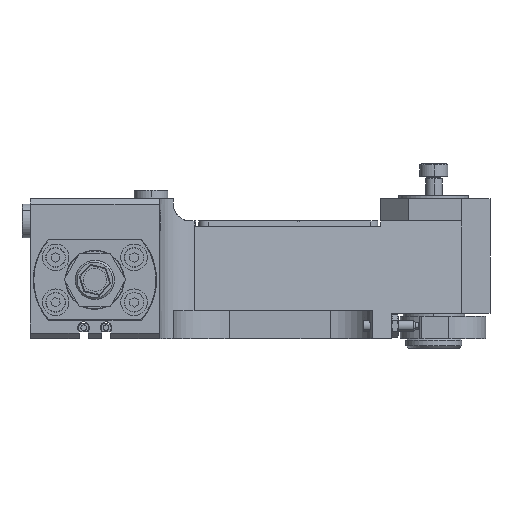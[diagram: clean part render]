
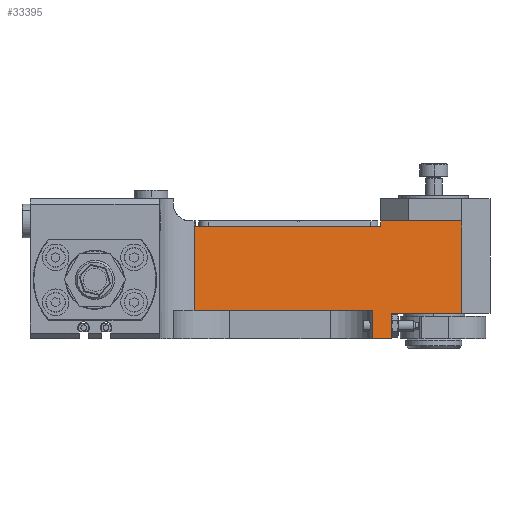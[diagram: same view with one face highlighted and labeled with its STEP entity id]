
A CAD part, left-side view. The second image highlights one B-rep face of the part: STEP entity #33395.
In plain terms, the highlighted planar face has unit normal (-0.985, -0.174, 0).
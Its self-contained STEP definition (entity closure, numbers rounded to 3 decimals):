
#8 = CARTESIAN_POINT ( 'NONE',  ( -24.408, -47., 0. ) ) ;
#9 = ORIENTED_EDGE ( 'NONE', *, *, #9022, .T. ) ;
#218 = FACE_OUTER_BOUND ( 'NONE', #1739, .T. ) ;
#664 = ORIENTED_EDGE ( 'NONE', *, *, #6085, .T. ) ;
#1014 = LINE ( 'NONE', #47224, #39146 ) ;
#1739 = EDGE_LOOP ( 'NONE', ( #11835, #14529, #16876, #664, #2997, #37823, #34022, #47125, #31259, #22346, #9, #3172 ) ) ;
#2475 = CARTESIAN_POINT ( 'NONE',  ( -20., -72., 0. ) ) ;
#2677 = DIRECTION ( 'NONE',  ( -0.174, 0.985, 0. ) ) ;
#2873 = VERTEX_POINT ( 'NONE', #39108 ) ;
#2928 = DIRECTION ( 'NONE',  ( 0., 0., 1. ) ) ;
#2997 = ORIENTED_EDGE ( 'NONE', *, *, #26569, .F. ) ;
#3166 = EDGE_CURVE ( 'NONE', #32808, #2873, #34988, .T. ) ;
#3172 = ORIENTED_EDGE ( 'NONE', *, *, #42246, .T. ) ;
#3358 = VERTEX_POINT ( 'NONE', #32902 ) ;
#3651 = DIRECTION ( 'NONE',  ( 0., 0., -1. ) ) ;
#3747 = DIRECTION ( 'NONE',  ( 0., 0., 1. ) ) ;
#3846 = EDGE_CURVE ( 'NONE', #3358, #13294, #29186, .T. ) ;
#4327 = VERTEX_POINT ( 'NONE', #34510 ) ;
#4519 = CARTESIAN_POINT ( 'NONE',  ( -20., -72., 0. ) ) ;
#4988 = LINE ( 'NONE', #18364, #33284 ) ;
#5144 = EDGE_CURVE ( 'NONE', #32420, #44809, #30233, .T. ) ;
#5644 = LINE ( 'NONE', #13846, #12024 ) ;
#6085 = EDGE_CURVE ( 'NONE', #44630, #42251, #4988, .T. ) ;
#6357 = DIRECTION ( 'NONE',  ( -0.174, 0.985, 0. ) ) ;
#6775 = CARTESIAN_POINT ( 'NONE',  ( -36.751, 23., 40. ) ) ;
#8155 = CARTESIAN_POINT ( 'NONE',  ( -36.858, 23.605, 10. ) ) ;
#9020 = CARTESIAN_POINT ( 'NONE',  ( -20., -72., 42. ) ) ;
#9022 = EDGE_CURVE ( 'NONE', #2873, #29036, #36561, .T. ) ;
#10053 = VECTOR ( 'NONE', #15705, 1000. ) ;
#10332 = CARTESIAN_POINT ( 'NONE',  ( -24.408, -47., 0. ) ) ;
#11835 = ORIENTED_EDGE ( 'NONE', *, *, #38830, .F. ) ;
#12024 = VECTOR ( 'NONE', #2677, 1000. ) ;
#13294 = VERTEX_POINT ( 'NONE', #8155 ) ;
#13475 = DIRECTION ( 'NONE',  ( -0.174, 0.985, 0. ) ) ;
#13846 = CARTESIAN_POINT ( 'NONE',  ( -20., -72., 10. ) ) ;
#14529 = ORIENTED_EDGE ( 'NONE', *, *, #3846, .T. ) ;
#14708 = VECTOR ( 'NONE', #36532, 1000. ) ;
#15705 = DIRECTION ( 'NONE',  ( -0.174, 0.985, 0. ) ) ;
#15878 = LINE ( 'NONE', #4519, #10053 ) ;
#16876 = ORIENTED_EDGE ( 'NONE', *, *, #22399, .F. ) ;
#18322 = VECTOR ( 'NONE', #2928, 1000. ) ;
#18364 = CARTESIAN_POINT ( 'NONE',  ( -25.642, -40., 0. ) ) ;
#22346 = ORIENTED_EDGE ( 'NONE', *, *, #3166, .T. ) ;
#22399 = EDGE_CURVE ( 'NONE', #44630, #13294, #5644, .T. ) ;
#24109 = DIRECTION ( 'NONE',  ( 0., 0., -1. ) ) ;
#25161 = VECTOR ( 'NONE', #33899, 1000. ) ;
#25817 = VECTOR ( 'NONE', #30190, 1000. ) ;
#25994 = VECTOR ( 'NONE', #33039, 1000. ) ;
#26569 = EDGE_CURVE ( 'NONE', #32420, #42251, #15878, .T. ) ;
#27921 = VECTOR ( 'NONE', #3747, 1000. ) ;
#29036 = VERTEX_POINT ( 'NONE', #6775 ) ;
#29069 = CARTESIAN_POINT ( 'NONE',  ( -20., -72., 42. ) ) ;
#29186 = LINE ( 'NONE', #38668, #45349 ) ;
#29313 = LINE ( 'NONE', #9020, #40911 ) ;
#29564 = CARTESIAN_POINT ( 'NONE',  ( -20., -72., 0. ) ) ;
#30190 = DIRECTION ( 'NONE',  ( 0., 0., 1. ) ) ;
#30233 = LINE ( 'NONE', #8, #27921 ) ;
#31259 = ORIENTED_EDGE ( 'NONE', *, *, #40231, .F. ) ;
#31453 = VERTEX_POINT ( 'NONE', #29069 ) ;
#31706 = CARTESIAN_POINT ( 'NONE',  ( -25.642, -40., 10. ) ) ;
#32420 = VERTEX_POINT ( 'NONE', #10332 ) ;
#32808 = VERTEX_POINT ( 'NONE', #47102 ) ;
#32902 = CARTESIAN_POINT ( 'NONE',  ( -36.858, 23.605, 42. ) ) ;
#33004 = CARTESIAN_POINT ( 'NONE',  ( -24.408, -47., 9. ) ) ;
#33039 = DIRECTION ( 'NONE',  ( 0.174, -0.985, 0. ) ) ;
#33280 = LINE ( 'NONE', #29564, #25817 ) ;
#33284 = VECTOR ( 'NONE', #3651, 1000. ) ;
#33395 = ADVANCED_FACE ( 'NONE', ( #218 ), #47204, .F. ) ;
#33899 = DIRECTION ( 'NONE',  ( 0., 0., -1. ) ) ;
#34022 = ORIENTED_EDGE ( 'NONE', *, *, #43460, .F. ) ;
#34510 = CARTESIAN_POINT ( 'NONE',  ( -20., -72., 9. ) ) ;
#34988 = LINE ( 'NONE', #38101, #25161 ) ;
#35893 = DIRECTION ( 'NONE',  ( 0.985, 0.174, 0. ) ) ;
#36044 = VERTEX_POINT ( 'NONE', #41552 ) ;
#36194 = CARTESIAN_POINT ( 'NONE',  ( -36.751, 23., 0. ) ) ;
#36532 = DIRECTION ( 'NONE',  ( -0.174, 0.985, 0. ) ) ;
#36561 = LINE ( 'NONE', #43628, #14708 ) ;
#37823 = ORIENTED_EDGE ( 'NONE', *, *, #5144, .T. ) ;
#38101 = CARTESIAN_POINT ( 'NONE',  ( -25.113, -43., 0. ) ) ;
#38668 = CARTESIAN_POINT ( 'NONE',  ( -36.858, 23.605, 0. ) ) ;
#38830 = EDGE_CURVE ( 'NONE', #3358, #36044, #45032, .T. ) ;
#39108 = CARTESIAN_POINT ( 'NONE',  ( -25.113, -43., 40. ) ) ;
#39146 = VECTOR ( 'NONE', #6357, 1000. ) ;
#39697 = AXIS2_PLACEMENT_3D ( 'NONE', #2475, #35893, #13475 ) ;
#40024 = CARTESIAN_POINT ( 'NONE',  ( -20., -72., 42. ) ) ;
#40231 = EDGE_CURVE ( 'NONE', #32808, #31453, #29313, .T. ) ;
#40232 = CARTESIAN_POINT ( 'NONE',  ( -25.642, -40., 0. ) ) ;
#40911 = VECTOR ( 'NONE', #42257, 1000. ) ;
#41408 = LINE ( 'NONE', #36194, #18322 ) ;
#41552 = CARTESIAN_POINT ( 'NONE',  ( -36.751, 23., 42. ) ) ;
#42246 = EDGE_CURVE ( 'NONE', #29036, #36044, #41408, .T. ) ;
#42251 = VERTEX_POINT ( 'NONE', #40232 ) ;
#42257 = DIRECTION ( 'NONE',  ( 0.174, -0.985, 0. ) ) ;
#42352 = EDGE_CURVE ( 'NONE', #4327, #31453, #33280, .T. ) ;
#43460 = EDGE_CURVE ( 'NONE', #4327, #44809, #1014, .T. ) ;
#43628 = CARTESIAN_POINT ( 'NONE',  ( -20., -72., 40. ) ) ;
#44630 = VERTEX_POINT ( 'NONE', #31706 ) ;
#44809 = VERTEX_POINT ( 'NONE', #33004 ) ;
#45032 = LINE ( 'NONE', #40024, #25994 ) ;
#45349 = VECTOR ( 'NONE', #24109, 1000. ) ;
#47102 = CARTESIAN_POINT ( 'NONE',  ( -25.113, -43., 42. ) ) ;
#47125 = ORIENTED_EDGE ( 'NONE', *, *, #42352, .T. ) ;
#47204 = PLANE ( 'NONE',  #39697 ) ;
#47224 = CARTESIAN_POINT ( 'NONE',  ( -20., -72., 9. ) ) ;
